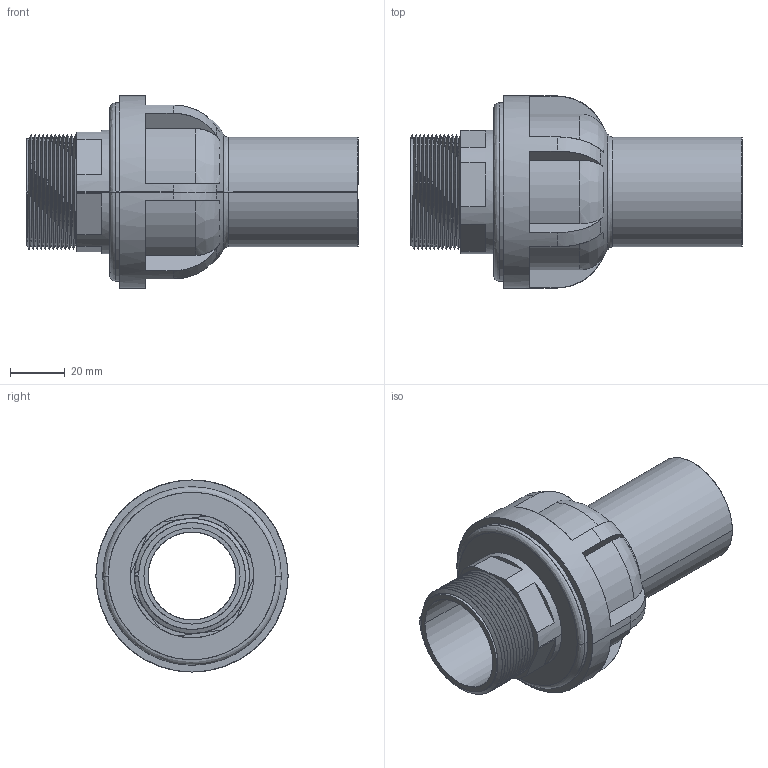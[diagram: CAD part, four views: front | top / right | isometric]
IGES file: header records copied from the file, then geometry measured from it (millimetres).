
Start section: SolidWorks IGES file using analytic representation for surfaces
Global section: file name: G:\Group\CAD\07 Requested Drawings - (uncontrolled)\HALINA DRAWINGS\ST\Fusion Plast Australia- drawings\Transition Adaptor\BIM\AX67134 - 40x1.25inch male.IGS; native system: SolidWorks 2019; preprocessor: SolidWorks 2019; author: hwegrzynska; date: 210614.145719; units: millimetre
Bounding box: 121 x 70 x 70 mm (x, y, z)
Surface area: 40261.1 mm2 (no closed solid volume)
Topology: 0 solids, 0 shells, 105 faces, 1965 edges, 1963 vertices
Faces by surface type: bspline 57, revolution 48
